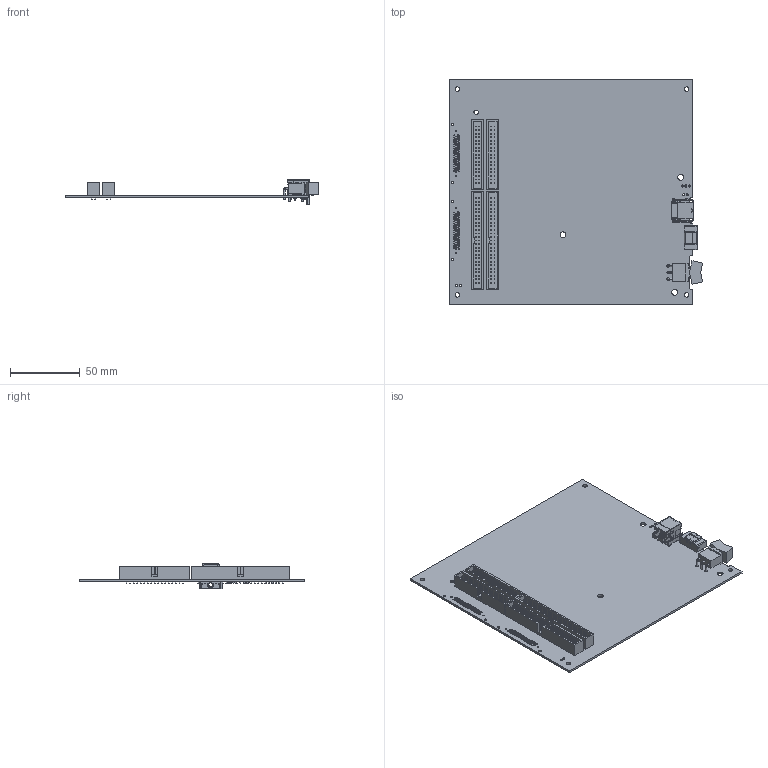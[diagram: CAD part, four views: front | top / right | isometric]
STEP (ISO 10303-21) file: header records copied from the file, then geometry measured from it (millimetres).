
FILE_DESCRIPTION((''),'2;1');
FILE_NAME('CU_USB-6343_OEM','2017-02-02T',('dkendric'),(''),'CREO PARAMETRIC BY PTC INC, 2015380','CREO PARAMETRIC BY PTC INC, 2015380','');
FILE_SCHEMA(('CONFIG_CONTROL_DESIGN'));
Products named in the file (1): CU_USB-6343_OEM
Bounding box: 182.3 x 162.56 x 18.36 mm (x, y, z)
Volume: 59346.7 mm3; surface area: 76954.6 mm2
Topology: 3 solids, 4 shells, 4354 faces, 11892 edges, 7860 vertices
Faces by surface type: plane 3094, cylinder 1202, bspline 40, torus 10, sphere 4, cone 2, extrusion 2
Entity records: 138764 total; most frequent: CARTESIAN_POINT 25589, ORIENTED_EDGE 23704, DIRECTION 22830, EDGE_CURVE 11852, VECTOR 9240, LINE 9238, VERTEX_POINT 7898, AXIS2_PLACEMENT_3D 6795
